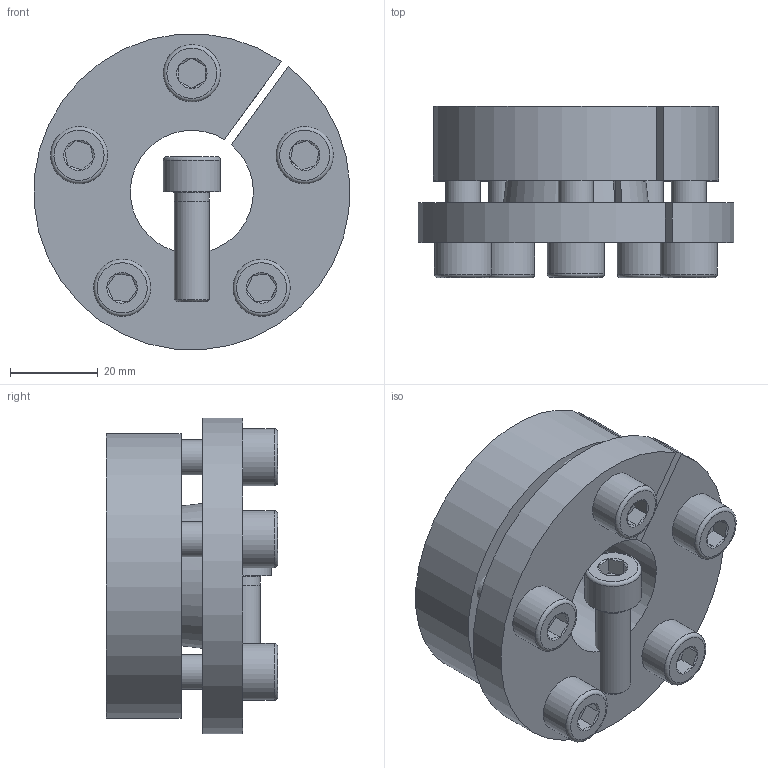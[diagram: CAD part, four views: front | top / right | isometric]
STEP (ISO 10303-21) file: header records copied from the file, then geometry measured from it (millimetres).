
FILE_DESCRIPTION( ( 'Unknown' ), '1' );
FILE_NAME( 'C:/Dokumente und Einstellungen/Sven/Desktop/15/KBS 15 - 28 x 65.stp', 'Unknown', ( 'Unknown' ), ( 'Unknown' ), 'XStep 1.0', 'Unknown', ' ' );
FILE_SCHEMA( ( 'automotive_design' ) );
Length unit declared in the file: millimetre
Products named in the file (3): Assem1; ISO EN DIN 4762 M8x25_10; KBS 15 - 28 x 65_0
Bounding box: 71.85 x 39 x 71.81 mm (x, y, z)
Volume: 155494.7 mm3; surface area: 54824.2 mm2
Topology: 8 solids, 8 shells, 194 faces, 404 edges, 250 vertices
Faces by surface type: plane 86, cylinder 50, cone 46, torus 12
Full cylindrical faces by diameter (mm): 6.647 x10, 7 x6, 8 x12, 9 x10, 13 x6
Entity records: 1524 total; most frequent: CARTESIAN_POINT 256, DIRECTION 230, ORIENTED_EDGE 170, AXIS2_PLACEMENT_3D 101, EDGE_LOOP 88, EDGE_CURVE 85, FACE_OUTER_BOUND 63, VERTEX_POINT 63
